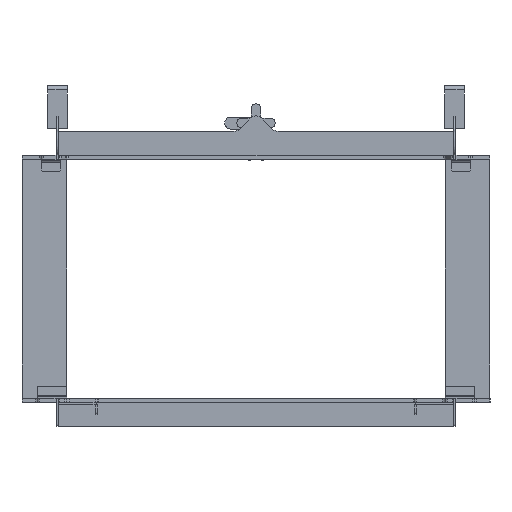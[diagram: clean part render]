
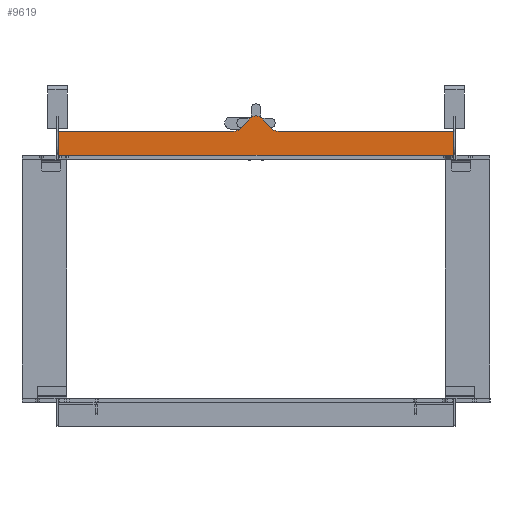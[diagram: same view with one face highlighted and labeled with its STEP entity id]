
A CAD part, front view. The second image highlights one B-rep face of the part: STEP entity #9619.
In plain terms, the highlighted planar face has unit normal (0, -1, 0).
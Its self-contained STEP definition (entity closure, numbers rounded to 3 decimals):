
#473=FACE_OUTER_BOUND('',#1002,.T.);
#1002=EDGE_LOOP('',(#7161,#7162,#7163,#7164,#7165,#7166,#7167,#7168,#7169,
#7170,#7171,#7172,#7173,#7174));
#1789=LINE('',#15218,#2741);
#1790=LINE('',#15222,#2742);
#1791=LINE('',#15224,#2743);
#1792=LINE('',#15228,#2744);
#1793=LINE('',#15230,#2745);
#1794=LINE('',#15234,#2746);
#1795=LINE('',#15237,#2747);
#2741=VECTOR('',#12257,10.);
#2742=VECTOR('',#12260,10.);
#2743=VECTOR('',#12263,10.);
#2744=VECTOR('',#12266,10.);
#2745=VECTOR('',#12269,10.);
#2746=VECTOR('',#12272,10.);
#2747=VECTOR('',#12275,10.);
#3502=CIRCLE('',#10416,15.);
#3503=CIRCLE('',#10417,20.);
#3504=CIRCLE('',#10418,2.);
#3505=CIRCLE('',#10419,2.);
#3506=CIRCLE('',#10420,2.);
#3507=CIRCLE('',#10421,2.);
#3508=CIRCLE('',#10422,20.);
#4084=VERTEX_POINT('',#14902);
#4085=VERTEX_POINT('',#14904);
#4189=VERTEX_POINT('',#15156);
#4190=VERTEX_POINT('',#15158);
#4216=VERTEX_POINT('',#15214);
#4217=VERTEX_POINT('',#15215);
#4218=VERTEX_POINT('',#15217);
#4219=VERTEX_POINT('',#15219);
#4220=VERTEX_POINT('',#15221);
#4221=VERTEX_POINT('',#15225);
#4222=VERTEX_POINT('',#15227);
#4223=VERTEX_POINT('',#15231);
#4224=VERTEX_POINT('',#15233);
#4225=VERTEX_POINT('',#15235);
#5296=EDGE_CURVE('',#4216,#4217,#3502,.T.);
#5297=EDGE_CURVE('',#4216,#4218,#1789,.T.);
#5298=EDGE_CURVE('',#4219,#4218,#3503,.T.);
#5299=EDGE_CURVE('',#4220,#4219,#1790,.T.);
#5300=EDGE_CURVE('',#4085,#4220,#3504,.T.);
#5301=EDGE_CURVE('',#4085,#4084,#1791,.T.);
#5302=EDGE_CURVE('',#4221,#4084,#3505,.T.);
#5303=EDGE_CURVE('',#4222,#4221,#1792,.T.);
#5304=EDGE_CURVE('',#4190,#4222,#3506,.T.);
#5305=EDGE_CURVE('',#4190,#4189,#1793,.T.);
#5306=EDGE_CURVE('',#4223,#4189,#3507,.T.);
#5307=EDGE_CURVE('',#4224,#4223,#1794,.T.);
#5308=EDGE_CURVE('',#4225,#4224,#3508,.T.);
#5309=EDGE_CURVE('',#4225,#4217,#1795,.T.);
#7161=ORIENTED_EDGE('',*,*,#5296,.F.);
#7162=ORIENTED_EDGE('',*,*,#5297,.T.);
#7163=ORIENTED_EDGE('',*,*,#5298,.F.);
#7164=ORIENTED_EDGE('',*,*,#5299,.F.);
#7165=ORIENTED_EDGE('',*,*,#5300,.F.);
#7166=ORIENTED_EDGE('',*,*,#5301,.T.);
#7167=ORIENTED_EDGE('',*,*,#5302,.F.);
#7168=ORIENTED_EDGE('',*,*,#5303,.F.);
#7169=ORIENTED_EDGE('',*,*,#5304,.F.);
#7170=ORIENTED_EDGE('',*,*,#5305,.T.);
#7171=ORIENTED_EDGE('',*,*,#5306,.F.);
#7172=ORIENTED_EDGE('',*,*,#5307,.F.);
#7173=ORIENTED_EDGE('',*,*,#5308,.F.);
#7174=ORIENTED_EDGE('',*,*,#5309,.T.);
#9017=PLANE('',#10415);
#9619=ADVANCED_FACE('',(#473),#9017,.T.);
#10415=AXIS2_PLACEMENT_3D('',#15213,#12253,#12254);
#10416=AXIS2_PLACEMENT_3D('',#15216,#12255,#12256);
#10417=AXIS2_PLACEMENT_3D('',#15220,#12258,#12259);
#10418=AXIS2_PLACEMENT_3D('',#15223,#12261,#12262);
#10419=AXIS2_PLACEMENT_3D('',#15226,#12264,#12265);
#10420=AXIS2_PLACEMENT_3D('',#15229,#12267,#12268);
#10421=AXIS2_PLACEMENT_3D('',#15232,#12270,#12271);
#10422=AXIS2_PLACEMENT_3D('',#15236,#12273,#12274);
#12253=DIRECTION('center_axis',(0.,-1.,0.));
#12254=DIRECTION('ref_axis',(1.,0.,0.));
#12255=DIRECTION('center_axis',(0.,1.,0.));
#12256=DIRECTION('ref_axis',(0.,0.,
1.));
#12257=DIRECTION('',(-0.707,0.,-0.707));
#12258=DIRECTION('center_axis',(0.,-1.,0.));
#12259=DIRECTION('ref_axis',(0.383,0.,-0.924));
#12260=DIRECTION('',(1.,0.,0.));
#12261=DIRECTION('center_axis',(0.,1.,0.));
#12262=DIRECTION('ref_axis',(-0.707,0.,0.707));
#12263=DIRECTION('',(0.,0.,-1.));
#12264=DIRECTION('center_axis',(0.,1.,0.));
#12265=DIRECTION('ref_axis',(-0.707,0.,-0.707));
#12266=DIRECTION('',(-1.,0.,0.));
#12267=DIRECTION('center_axis',(0.,1.,0.));
#12268=DIRECTION('ref_axis',(0.707,0.,-0.707));
#12269=DIRECTION('',(0.,0.,1.));
#12270=DIRECTION('center_axis',(0.,1.,0.));
#12271=DIRECTION('ref_axis',(0.707,0.,0.707));
#12272=DIRECTION('',(1.,0.,0.));
#12273=DIRECTION('center_axis',(0.,-1.,0.));
#12274=DIRECTION('ref_axis',(-0.383,0.,-0.924));
#12275=DIRECTION('',(-0.707,0.,0.707));
#14902=CARTESIAN_POINT('',(-411.5,-96.5,10.));
#14904=CARTESIAN_POINT('',(-411.5,-96.5,56.));
#15156=CARTESIAN_POINT('',(411.5,-96.5,56.));
#15158=CARTESIAN_POINT('',(411.5,-96.5,10.));
#15213=CARTESIAN_POINT('Origin',(0.,-96.5,
33.));
#15214=CARTESIAN_POINT('',(-10.607,-96.5,85.606));
#15215=CARTESIAN_POINT('',(10.607,-96.5,85.606));
#15216=CARTESIAN_POINT('Origin',(0.,-96.5,
75.));
#15217=CARTESIAN_POINT('',(-32.355,-96.5,63.858));
#15218=CARTESIAN_POINT('',(0.,-96.5,96.213));
#15219=CARTESIAN_POINT('',(-46.497,-96.5,58.));
#15220=CARTESIAN_POINT('Origin',(-46.497,-96.5,78.));
#15221=CARTESIAN_POINT('',(-409.5,-96.5,58.));
#15222=CARTESIAN_POINT('',(411.5,-96.5,58.));
#15223=CARTESIAN_POINT('Origin',(-409.5,-96.5,56.));
#15224=CARTESIAN_POINT('',(-411.5,-96.5,58.));
#15225=CARTESIAN_POINT('',(-409.5,-96.5,8.));
#15226=CARTESIAN_POINT('Origin',(-409.5,-96.5,10.));
#15227=CARTESIAN_POINT('',(409.5,-96.5,8.));
#15228=CARTESIAN_POINT('',(-15.343,-96.5,8.));
#15229=CARTESIAN_POINT('Origin',(409.5,-96.5,10.));
#15230=CARTESIAN_POINT('',(411.5,-96.5,58.));
#15231=CARTESIAN_POINT('',(409.5,-96.5,58.));
#15232=CARTESIAN_POINT('Origin',(409.5,-96.5,56.));
#15233=CARTESIAN_POINT('',(46.497,-96.5,58.));
#15234=CARTESIAN_POINT('',(411.5,-96.5,58.));
#15235=CARTESIAN_POINT('',(32.355,-96.5,63.858));
#15236=CARTESIAN_POINT('Origin',(46.497,-96.5,78.));
#15237=CARTESIAN_POINT('',(38.213,-96.5,58.));
